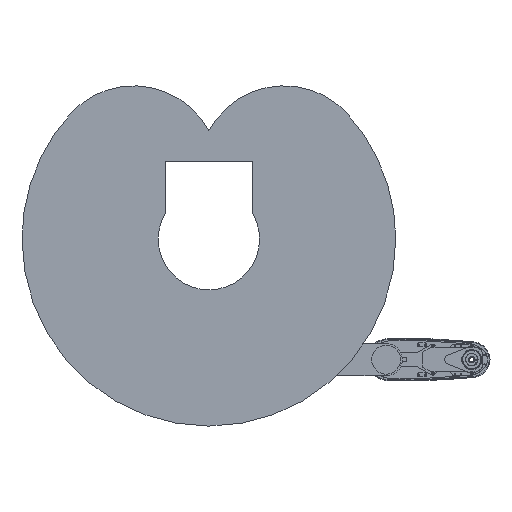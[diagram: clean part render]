
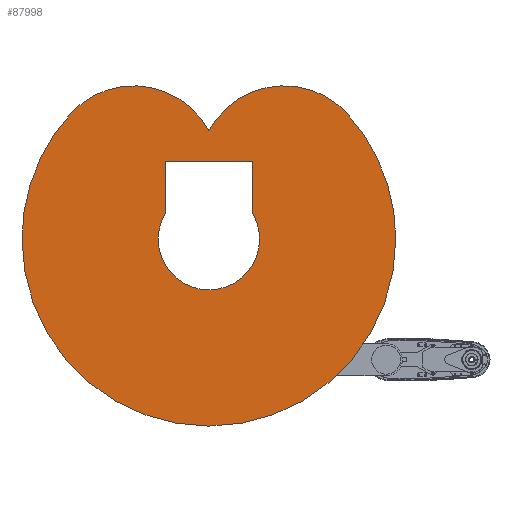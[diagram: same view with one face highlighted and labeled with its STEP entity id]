
A CAD part, front view. The second image highlights one B-rep face of the part: STEP entity #87998.
In plain terms, the highlighted planar face has unit normal (0, -1, 0).
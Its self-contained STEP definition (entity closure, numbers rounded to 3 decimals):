
#365 = PLANE ( 'NONE',  #125114 ) ;
#3794 = DIRECTION ( 'NONE',  ( 0., 1., 0. ) ) ;
#5027 = CARTESIAN_POINT ( 'NONE',  ( 0., 0., 0. ) ) ;
#5254 = CIRCLE ( 'NONE', #78947, 600. ) ;
#5616 = CARTESIAN_POINT ( 'NONE',  ( 405.733, 0., 442.019 ) ) ;
#5757 = ORIENTED_EDGE ( 'NONE', *, *, #64889, .F. ) ;
#5866 = EDGE_CURVE ( 'NONE', #86890, #94142, #54809, .T. ) ;
#6052 = DIRECTION ( 'NONE',  ( 0., 1., 0. ) ) ;
#7306 = DIRECTION ( 'NONE',  ( 0., 0., 1. ) ) ;
#7821 = EDGE_CURVE ( 'NONE', #80680, #72059, #64744, .T. ) ;
#8721 = DIRECTION ( 'NONE',  ( 0., 0., 1. ) ) ;
#8806 = CIRCLE ( 'NONE', #64650, 162.6 ) ;
#10410 = CIRCLE ( 'NONE', #106273, 600. ) ;
#10726 = CARTESIAN_POINT ( 'NONE',  ( 108.734, 0., -120.761 ) ) ;
#11195 = ORIENTED_EDGE ( 'NONE', *, *, #60223, .T. ) ;
#14923 = DIRECTION ( 'NONE',  ( 0., 0., 1. ) ) ;
#19421 = VERTEX_POINT ( 'NONE', #116773 ) ;
#19778 = VECTOR ( 'NONE', #62302, 1000. ) ;
#20541 = DIRECTION ( 'NONE',  ( 0., 0., 1. ) ) ;
#22374 = FACE_OUTER_BOUND ( 'NONE', #112531, .T. ) ;
#23310 = AXIS2_PLACEMENT_3D ( 'NONE', #28459, #97367, #38380 ) ;
#23833 = AXIS2_PLACEMENT_3D ( 'NONE', #5027, #73893, #14923 ) ;
#24206 = ORIENTED_EDGE ( 'NONE', *, *, #7821, .F. ) ;
#24740 = CARTESIAN_POINT ( 'NONE',  ( 349.035, 0., 0. ) ) ;
#26797 = EDGE_CURVE ( 'NONE', #111980, #71437, #5254, .T. ) ;
#28459 = CARTESIAN_POINT ( 'NONE',  ( 0., 0., 0. ) ) ;
#32450 = VERTEX_POINT ( 'NONE', #24740 ) ;
#32651 = AXIS2_PLACEMENT_3D ( 'NONE', #65004, #6052, #74883 ) ;
#32789 = CARTESIAN_POINT ( 'NONE',  ( 0., 0., -162.6 ) ) ;
#33526 = EDGE_CURVE ( 'NONE', #98163, #19421, #123150, .T. ) ;
#37321 = VERTEX_POINT ( 'NONE', #91103 ) ;
#37327 = EDGE_CURVE ( 'NONE', #115267, #37321, #95258, .T. ) ;
#38010 = AXIS2_PLACEMENT_3D ( 'NONE', #126613, #67671, #8721 ) ;
#38146 = CARTESIAN_POINT ( 'NONE',  ( 250., 0., 140. ) ) ;
#38380 = DIRECTION ( 'NONE',  ( 0., 0., 1. ) ) ;
#38518 = VECTOR ( 'NONE', #41319, 1000. ) ;
#39418 = CIRCLE ( 'NONE', #61578, 275.033 ) ;
#41319 = DIRECTION ( 'NONE',  ( -1., 0., 0. ) ) ;
#43753 = CARTESIAN_POINT ( 'NONE',  ( 0., 0., 600. ) ) ;
#46145 = DIRECTION ( 'NONE',  ( 0., 1., 0. ) ) ;
#46387 = CARTESIAN_POINT ( 'NONE',  ( 250., 0., 140. ) ) ;
#47038 = ORIENTED_EDGE ( 'NONE', *, *, #87814, .F. ) ;
#48381 = CARTESIAN_POINT ( 'NONE',  ( 82.697, 0., -140. ) ) ;
#49176 = ORIENTED_EDGE ( 'NONE', *, *, #33526, .T. ) ;
#50136 = DIRECTION ( 'NONE',  ( 0., 1., 0. ) ) ;
#54809 = CIRCLE ( 'NONE', #32651, 600. ) ;
#55247 = ORIENTED_EDGE ( 'NONE', *, *, #84935, .F. ) ;
#55937 = DIRECTION ( 'NONE',  ( 0., 1., 0. ) ) ;
#56588 = ORIENTED_EDGE ( 'NONE', *, *, #37327, .F. ) ;
#60223 = EDGE_CURVE ( 'NONE', #115267, #98163, #8806, .T. ) ;
#61578 = AXIS2_PLACEMENT_3D ( 'NONE', #114889, #55937, #124794 ) ;
#62302 = DIRECTION ( 'NONE',  ( 1., 0., 0. ) ) ;
#62750 = CARTESIAN_POINT ( 'NONE',  ( 0., 0., 0. ) ) ;
#64650 = AXIS2_PLACEMENT_3D ( 'NONE', #109104, #50136, #119002 ) ;
#64744 = LINE ( 'NONE', #110207, #38518 ) ;
#64889 = EDGE_CURVE ( 'NONE', #94142, #32450, #96434, .T. ) ;
#64965 = CIRCLE ( 'NONE', #23833, 162.6 ) ;
#65004 = CARTESIAN_POINT ( 'NONE',  ( 0., 0., 0. ) ) ;
#67671 = DIRECTION ( 'NONE',  ( 0., 1., 0. ) ) ;
#68847 = ORIENTED_EDGE ( 'NONE', *, *, #77128, .T. ) ;
#69517 = CARTESIAN_POINT ( 'NONE',  ( 405.733, 0., -442.019 ) ) ;
#71437 = VERTEX_POINT ( 'NONE', #124907 ) ;
#72059 = VERTEX_POINT ( 'NONE', #126866 ) ;
#72646 = DIRECTION ( 'NONE',  ( 0., 0., 1. ) ) ;
#73893 = DIRECTION ( 'NONE',  ( 0., 1., 0. ) ) ;
#74784 = FACE_BOUND ( 'NONE', #106352, .T. ) ;
#74883 = DIRECTION ( 'NONE',  ( 0., 0., 1. ) ) ;
#76497 = EDGE_CURVE ( 'NONE', #71437, #86890, #10410, .T. ) ;
#77128 = EDGE_CURVE ( 'NONE', #19421, #72059, #64965, .T. ) ;
#78947 = AXIS2_PLACEMENT_3D ( 'NONE', #105150, #46145, #115047 ) ;
#79532 = DIRECTION ( 'NONE',  ( 0., 1., 0. ) ) ;
#80680 = VERTEX_POINT ( 'NONE', #38146 ) ;
#81660 = ORIENTED_EDGE ( 'NONE', *, *, #76497, .F. ) ;
#84935 = EDGE_CURVE ( 'NONE', #37321, #80680, #102809, .T. ) ;
#86890 = VERTEX_POINT ( 'NONE', #43753 ) ;
#87814 = EDGE_CURVE ( 'NONE', #32450, #111980, #39418, .T. ) ;
#87998 = ADVANCED_FACE ( 'NONE', ( #74784, #22374 ), #365, .F. ) ;
#91103 = CARTESIAN_POINT ( 'NONE',  ( 250., 0., -140. ) ) ;
#94142 = VERTEX_POINT ( 'NONE', #5616 ) ;
#95258 = LINE ( 'NONE', #121213, #19778 ) ;
#96434 = CIRCLE ( 'NONE', #38010, 275.033 ) ;
#97367 = DIRECTION ( 'NONE',  ( 0., 1., 0. ) ) ;
#98163 = VERTEX_POINT ( 'NONE', #32789 ) ;
#102809 = LINE ( 'NONE', #46387, #125948 ) ;
#105150 = CARTESIAN_POINT ( 'NONE',  ( 0., 0., 0. ) ) ;
#106273 = AXIS2_PLACEMENT_3D ( 'NONE', #62750, #3794, #72646 ) ;
#106352 = EDGE_LOOP ( 'NONE', ( #56588, #11195, #49176, #68847, #24206, #55247 ) ) ;
#107856 = ORIENTED_EDGE ( 'NONE', *, *, #26797, .F. ) ;
#109104 = CARTESIAN_POINT ( 'NONE',  ( 0., 0., 0. ) ) ;
#110207 = CARTESIAN_POINT ( 'NONE',  ( 82.697, 0., 140. ) ) ;
#110815 = ORIENTED_EDGE ( 'NONE', *, *, #5866, .F. ) ;
#111980 = VERTEX_POINT ( 'NONE', #69517 ) ;
#112531 = EDGE_LOOP ( 'NONE', ( #5757, #110815, #81660, #107856, #47038 ) ) ;
#114889 = CARTESIAN_POINT ( 'NONE',  ( 217.467, 0., -241.522 ) ) ;
#115047 = DIRECTION ( 'NONE',  ( 0., 0., 1. ) ) ;
#115267 = VERTEX_POINT ( 'NONE', #48381 ) ;
#116773 = CARTESIAN_POINT ( 'NONE',  ( 0., 0., 162.6 ) ) ;
#119002 = DIRECTION ( 'NONE',  ( 0., 0., 1. ) ) ;
#121213 = CARTESIAN_POINT ( 'NONE',  ( 250., 0., -140. ) ) ;
#123150 = CIRCLE ( 'NONE', #23310, 162.6 ) ;
#124794 = DIRECTION ( 'NONE',  ( 0., 0., 1. ) ) ;
#124907 = CARTESIAN_POINT ( 'NONE',  ( 0., 0., -600. ) ) ;
#125114 = AXIS2_PLACEMENT_3D ( 'NONE', #10726, #79532, #20541 ) ;
#125948 = VECTOR ( 'NONE', #7306, 1000. ) ;
#126613 = CARTESIAN_POINT ( 'NONE',  ( 217.467, 0., 241.522 ) ) ;
#126866 = CARTESIAN_POINT ( 'NONE',  ( 82.697, 0., 140. ) ) ;
